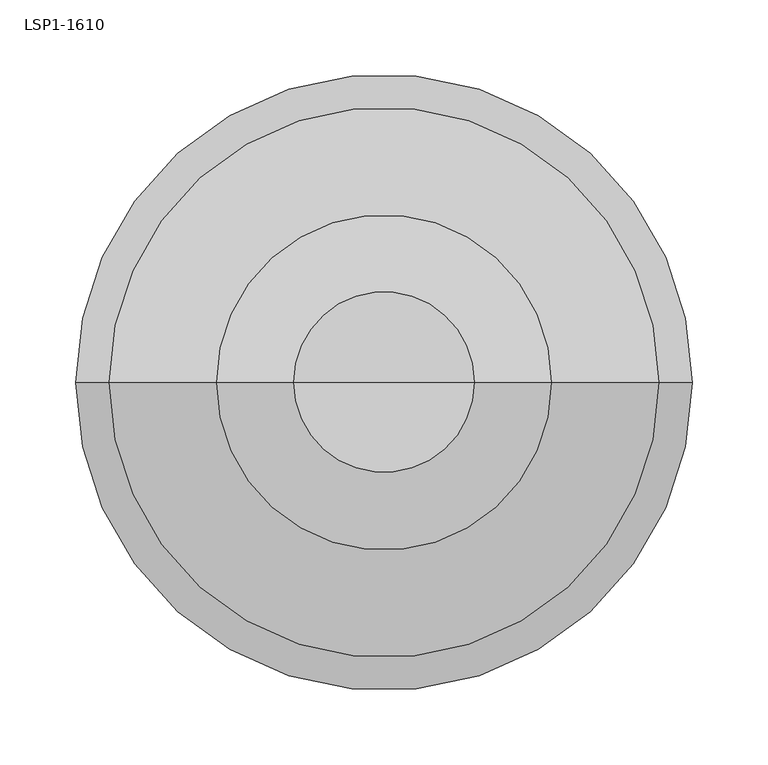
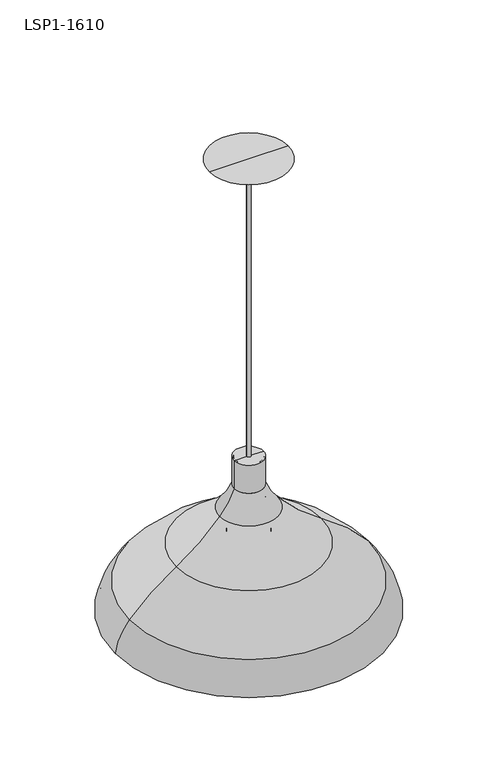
"""IFC4 building model written with IfcOpenShell, lengths in millimetres: light fixture geometry, Haworth_Swell_PendantOneLight : LSP1-1610."""

import ifcopenshell
import ifcopenshell.guid

model = None  # the IFC model being written
_history = None  # IfcOwnerHistory: only IFC2X3 demands one
_inside = {}  # id of a spatial element -> (the spatial element, [elements in it])
_under = {}  # id of a project, library or spatial element -> (it, [spatial elements below it])
_declared = {}  # id of a project -> (the project, [libraries it declares])
_typed = {}  # id of a type object -> (the type object, [elements of that type])
_made_of = {}  # id of a material, layer set ... -> (it, [elements and type objects made of it])


def new_model(schema):
    """Start an empty IFC model of exactly this schema.

    Asked for "IFC4X3", IfcOpenShell would pick the latest addendum, in which some entities
    have other attributes; the version numbers below select the first issue.
    IFC2X3 requires an IfcOwnerHistory on every rooted entity: one is made here for all.
    """
    global model, _history
    if schema == "IFC4X3":
        model = ifcopenshell.file(schema_version=(4, 3, 0, 0))
    else:
        model = ifcopenshell.file(schema=schema)
    _inside.clear()
    _under.clear()
    _declared.clear()
    _typed.clear()
    _made_of.clear()
    _history = None
    if model.schema == "IFC2X3":
        org = make("IfcOrganization", Name="unknown")
        user = make(
            "IfcPersonAndOrganization",
            ThePerson=make("IfcPerson", FamilyName="unknown"),
            TheOrganization=org,
        )
        app = make(
            "IfcApplication",
            ApplicationDeveloper=org,
            Version="unknown",
            ApplicationFullName="unknown",
            ApplicationIdentifier="unknown",
        )
        _history = make(
            "IfcOwnerHistory",
            OwningUser=user,
            OwningApplication=app,
            ChangeAction="ADDED",
            CreationDate=0,
        )
    return model


def make(cls, **values):
    """One entity of the class cls with the attributes given. An attribute that is None is left unset."""
    return model.create_entity(
        cls, **{name: value for name, value in values.items() if value is not None}
    )


def rooted(cls, **values):
    """An entity with a GlobalId (a new one), such as an element, a storey or a relation."""
    return make(cls, GlobalId=ifcopenshell.guid.new(), OwnerHistory=_history, **values)


def si_unit(unit_type, name, prefix=None):
    """IfcSIUnit, for example si_unit("LENGTHUNIT", "METRE", prefix="MILLI")."""
    return make("IfcSIUnit", UnitType=unit_type, Prefix=prefix, Name=name)


def assignment(units):
    """IfcUnitAssignment: the units of a project."""
    return None if units is None else make("IfcUnitAssignment", Units=units)


def point(xyz):
    """IfcCartesianPoint."""
    return None if xyz is None else make("IfcCartesianPoint", Coordinates=xyz)


def direction(xyz):
    """IfcDirection."""
    return None if xyz is None else make("IfcDirection", DirectionRatios=xyz)


def frame(location, z_axis=None, x_axis=None):
    """IfcAxis2Placement3D, a coordinate frame: its origin and axes. An axis left out is left unset."""
    return make(
        "IfcAxis2Placement3D",
        Location=point(location),
        Axis=direction(z_axis),
        RefDirection=direction(x_axis),
    )


def origin():
    """The frame at (0, 0, 0) with its axes left unset."""
    return frame((0.0, 0.0, 0.0))


def place(relative_to, where):
    """IfcLocalPlacement: puts the frame where relative to a parent placement (None: the world)."""
    return make(
        "IfcLocalPlacement", PlacementRelTo=relative_to, RelativePlacement=where
    )


def context(
    kind, dimensions, precision=None, world=None, true_north=None, identifier=None
):
    """IfcGeometricRepresentationContext, for example the 3D "Model" context."""
    return make(
        "IfcGeometricRepresentationContext",
        ContextIdentifier=identifier,
        ContextType=kind,
        CoordinateSpaceDimension=dimensions,
        Precision=precision,
        WorldCoordinateSystem=world,
        TrueNorth=true_north,
    )


def project(units=None, contexts=None):
    """IfcProject with its units and contexts."""
    return rooted(
        "IfcProject",
        Name="project",
        RepresentationContexts=contexts,
        UnitsInContext=assignment(units),
    )


def spatial(cls, under=None, at=None, **own):
    """A site, building, storey or space (cls), placed at a placement, below another one or the project."""
    s = rooted(cls, ObjectPlacement=at, **own)
    if under is not None:
        _under.setdefault(under.id(), (under, []))[1].append(s)
    return s


def polyline(points):
    """IfcPolyline through the points."""
    return make("IfcPolyline", Points=[point(p) for p in points])


def circle_curve(where, radius):
    """IfcCircle in the frame where."""
    return make("IfcCircle", Position=where, Radius=radius)


def ellipse_curve(where, semi_axis1, semi_axis2):
    """IfcEllipse in the frame where."""
    return make(
        "IfcEllipse", Position=where, SemiAxis1=semi_axis1, SemiAxis2=semi_axis2
    )


def trimmed(basis, trim1, trim2, sense, master):
    """IfcTrimmedCurve: the piece of a basis curve between two trims."""
    return make(
        "IfcTrimmedCurve",
        BasisCurve=basis,
        Trim1=trim1,
        Trim2=trim2,
        SenseAgreement=sense,
        MasterRepresentation=master,
    )


def shape(context_of_items, identifier, shape_type, items):
    """IfcShapeRepresentation: the items that make up one representation, for example the "Body"."""
    return make(
        "IfcShapeRepresentation",
        ContextOfItems=context_of_items,
        RepresentationIdentifier=identifier,
        RepresentationType=shape_type,
        Items=items,
    )


def source(mapping_origin, context_of_items, identifier, shape_type, items):
    """IfcRepresentationMap: a shape defined once, which mapped items show again and again."""
    return make(
        "IfcRepresentationMap",
        MappingOrigin=mapping_origin,
        MappedRepresentation=shape(context_of_items, identifier, shape_type, items),
    )


def transform(
    local_origin,
    x_axis=None,
    y_axis=None,
    z_axis=None,
    scale=None,
    scale2=None,
    scale3=None,
    uniform=True,
):
    """IfcCartesianTransformationOperator3D, or its non-uniform kind. x_axis, y_axis, z_axis: its Axis1, 2, 3."""
    if uniform:
        return make(
            "IfcCartesianTransformationOperator3D",
            Axis1=direction(x_axis),
            Axis2=direction(y_axis),
            LocalOrigin=point(local_origin),
            Scale=scale,
            Axis3=direction(z_axis),
        )
    return make(
        "IfcCartesianTransformationOperator3DnonUniform",
        Axis1=direction(x_axis),
        Axis2=direction(y_axis),
        LocalOrigin=point(local_origin),
        Scale=scale,
        Axis3=direction(z_axis),
        Scale2=scale2,
        Scale3=scale3,
    )


def mapped(mapping_source, mapping_target):
    """IfcMappedItem: shows the shape of a source again, moved by a transform."""
    return make(
        "IfcMappedItem", MappingSource=mapping_source, MappingTarget=mapping_target
    )


def made_of(thing, what):
    """Note that an element or type object is made of a material, layer set ...; save() writes the relation."""
    if what is not None:
        _made_of.setdefault(what.id(), (what, []))[1].append(thing)
    return thing


def element(
    cls,
    number,
    at=None,
    inside=None,
    cuts=None,
    type_object=None,
    material=None,
    context=None,
    identifier="Body",
    shape_type=None,
    held_by="IfcProductDefinitionShape",
    body=None,
    shapes=None,
    **own,
):
    """One element of the class cls, such as IfcWall. Its Tag is "e" and its number.

    at: its placement. inside: the storey or other place that contains it. cuts: it is an
    opening in that element (IfcRelVoidsElement). A single representation is given by context,
    identifier, shape_type and body (its items); several are given by shapes. held_by: the class
    of the entity that holds the representations. save() writes the other relations.
    """
    e = rooted(cls, Tag="e%d" % number, ObjectPlacement=at, **own)
    if body is not None:
        shapes = [shape(context, identifier, shape_type, body)]
    if shapes is not None:
        e.Representation = make(held_by, Representations=shapes)
    if inside is not None:
        _inside.setdefault(inside.id(), (inside, []))[1].append(e)
    if cuts is not None:
        rooted(
            "IfcRelVoidsElement", RelatingBuildingElement=cuts, RelatedOpeningElement=e
        )
    if type_object is not None:
        _typed.setdefault(type_object.id(), (type_object, []))[1].append(e)
    return made_of(e, material)


def aggregate(whole, parts):
    """IfcRelAggregates: a whole, such as a stair, and the parts it consists of."""
    return rooted("IfcRelAggregates", RelatingObject=whole, RelatedObjects=parts)


def save(model, path):
    """Write the relations noted so far, then the file.

    IfcRelAggregates (storeys below a building ...), IfcRelContainedInSpatialStructure (elements
    in a storey), IfcRelDefinesByType, IfcRelAssociatesMaterial and IfcRelDeclares: one each for
    every whole, place, type object, material and project.
    """
    for whole, parts in _under.values():
        aggregate(whole, parts)
    for where, things in _inside.values():
        rooted(
            "IfcRelContainedInSpatialStructure",
            RelatedElements=things,
            RelatingStructure=where,
        )
    for kind, things in _typed.values():
        rooted("IfcRelDefinesByType", RelatedObjects=things, RelatingType=kind)
    for what, things in _made_of.values():
        rooted("IfcRelAssociatesMaterial", RelatedObjects=things, RelatingMaterial=what)
    for by, libraries in _declared.values():
        rooted("IfcRelDeclares", RelatingContext=by, RelatedDefinitions=libraries)
    model.write(path)


def plane_surface(at):
    """IfcPlane: the flat surface through the origin of the frame at, square to its z axis."""
    return make("IfcPlane", Position=at)


def cylinder_surface(at, radius):
    """IfcCylindricalSurface: all points at the distance radius from the z axis of the frame at."""
    return make("IfcCylindricalSurface", Position=at, Radius=radius)


def revolved_surface(curve, axis_point, axis_direction):
    """IfcSurfaceOfRevolution: the curve turned about the line through axis_point along axis_direction."""
    return make(
        "IfcSurfaceOfRevolution",
        SweptCurve=make("IfcArbitraryOpenProfileDef", ProfileType="CURVE", Curve=curve),
        AxisPosition=make("IfcAxis1Placement", Location=point(axis_point), Axis=direction(axis_direction)),
    )


def advanced_brep(points, edges, surfaces, faces):
    """IfcAdvancedBrep: a solid bounded by faces that lie on surfaces and meet in shared edges.

    An edge is (start, end): straight between two places in points (the first is 0);
    or (start, end, curve); or (start, end, curve, False) where it runs against its curve.
    A face is (place in surfaces, loops), or (place, loops, False) where it looks against
    its surface's normal. A loop lists edges by number (the first is 1), with a minus sign
    where the edge is run from its end to its start. The first loop is the outer one.
    """
    corners = [point(p) for p in points]
    vertices = [make("IfcVertexPoint", VertexGeometry=c) for c in corners]
    made = []
    for start, end, *more in edges:
        made.append(
            make(
                "IfcEdgeCurve",
                EdgeStart=vertices[start],
                EdgeEnd=vertices[end],
                EdgeGeometry=more[0] if more else make("IfcPolyline", Points=[corners[start], corners[end]]),
                SameSense=more[1] if len(more) > 1 else True,
            )
        )
    hull = []
    for where, loops, *sense in faces:
        bounds = []
        for j, loop in enumerate(loops):
            ring = [make("IfcOrientedEdge", EdgeElement=made[abs(k) - 1], Orientation=k > 0) for k in loop]
            bounds.append(
                make(
                    "IfcFaceOuterBound" if j == 0 else "IfcFaceBound",
                    Bound=make("IfcEdgeLoop", EdgeList=ring),
                    Orientation=True,
                )
            )
        hull.append(make("IfcAdvancedFace", Bounds=bounds, FaceSurface=surfaces[where], SameSense=sense[0] if sense else True))
    return make("IfcAdvancedBrep", Outer=make("IfcClosedShell", CfsFaces=hull))


def lsp1_1610_a081eefe(model_context):
    return source(origin(), model_context, "Body", "AdvancedBrep", [
        advanced_brep(
        [(-434.1339478, 224.1223386, 2526.8983149), (-396.0170628, 224.1223386, 2526.8983149), (-393.3437457, 224.1223386, 2479.1977381), (-436.807265, 224.1223386, 2479.1977381), (-431.4411306, 224.1223386, 2526.8983149), (-398.70988, 224.1223386, 2526.8983149), (-434.1777176, 224.1223386, 2479.1498223), (-395.9732931, 224.1223386, 2479.1498223), (-432.560074, 224.1223386, 2479.1498223), (-397.5909366, 224.1223386, 2479.1498223), (-440.9016384, 224.1223386, 2454.9241603), (-389.2493722, 224.1223386, 2454.9241603), (-440.4092806, 224.1223386, 2450.598757), (-389.7417301, 224.1223386, 2450.598757), (-442.4017725, 224.1223386, 2450.598757), (-387.7492381, 224.1223386, 2450.598757), (-442.9636091, 224.1223386, 2456.4743423), (-387.1874015, 224.1223386, 2456.4743423), (-435.1393165, 224.1223386, 2479.1977381), (-395.0116942, 224.1223386, 2479.1977381)],
        [
            (0, 1, circle_curve(frame((-415.0755053, 224.1223386, 2526.8983149), z_axis=(0.0, 0.0, -1.0), x_axis=(1.0, 0.0, 0.0)), 19.0584425)),
            (1, 2, circle_curve(frame((-496.003567, 224.1223386, 2497.3695008), z_axis=(0.0, 1.0, 0.0), x_axis=(1.0, 0.0, 0.0)), 104.2557043)),
            (2, 3, circle_curve(frame((-415.0755053, 224.1223386, 2479.1977381), z_axis=(0.0, 0.0, 1.0), x_axis=(1.0, 0.0, 0.0)), 21.7317596)),
            (3, 0, circle_curve(frame((-334.1474437, 224.1223386, 2497.3695008), z_axis=(0.0, 1.0, 0.0), x_axis=(-1.0, 0.0, 0.0)), 104.2557043)),
            (1, 0, circle_curve(frame((-415.0755053, 224.1223386, 2526.8983149), z_axis=(0.0, 0.0, -1.0), x_axis=(1.0, 0.0, 0.0)), 19.0584425)),
            (3, 2, circle_curve(frame((-415.0755053, 224.1223386, 2479.1977381), z_axis=(0.0, 0.0, 1.0), x_axis=(1.0, 0.0, 0.0)), 21.7317596)),
            (4, 5, circle_curve(frame((-415.0755053, 224.1223386, 2526.8983149), z_axis=(0.0, 0.0, -1.0), x_axis=(1.0, 0.0, 0.0)), 16.3656253)),
            (5, 1),
            (0, 4),
            (5, 4, circle_curve(frame((-415.0755053, 224.1223386, 2526.8983149), z_axis=(0.0, 0.0, -1.0), x_axis=(1.0, 0.0, 0.0)), 16.3656253)),
            (6, 7, circle_curve(frame((-415.0755053, 224.1223386, 2479.1498223), z_axis=(0.0, 0.0, -1.0), x_axis=(1.0, 0.0, 0.0)), 19.1022122)),
            (7, 5, circle_curve(frame((-496.003567, 224.1223386, 2497.3695008), z_axis=(0.0, -1.0, 0.0), x_axis=(1.0, 0.0, 0.0)), 101.6760168)),
            (4, 6, circle_curve(frame((-334.1474437, 224.1223386, 2497.3695008), z_axis=(0.0, -1.0, 0.0), x_axis=(-1.0, 0.0, 0.0)), 101.6760168)),
            (7, 6, circle_curve(frame((-415.0755053, 224.1223386, 2479.1498223), z_axis=(0.0, 0.0, -1.0), x_axis=(1.0, 0.0, 0.0)), 19.1022122)),
            (8, 9, circle_curve(frame((-415.0755053, 224.1223386, 2479.1498223), z_axis=(0.0, 0.0, -1.0), x_axis=(1.0, 0.0, 0.0)), 17.4845687)),
            (9, 7),
            (6, 8),
            (9, 8, circle_curve(frame((-415.0755053, 224.1223386, 2479.1498223), z_axis=(0.0, 0.0, -1.0), x_axis=(1.0, 0.0, 0.0)), 17.4845687)),
            (10, 11, circle_curve(frame((-415.0755053, 224.1223386, 2454.9241603), z_axis=(0.0, 0.0, -1.0), x_axis=(1.0, 0.0, 0.0)), 25.8261331)),
            (11, 9, circle_curve(frame((-355.9978718, 224.1223386, 2479.9225165), z_axis=(0.0, 1.0, 0.0), x_axis=(1.0, 0.0, 0.0)), 41.6002415)),
            (8, 10, circle_curve(frame((-474.1531388, 224.1223386, 2479.9225165), z_axis=(0.0, 1.0, 0.0), x_axis=(-1.0, 0.0, 0.0)), 41.6002415)),
            (11, 10, circle_curve(frame((-415.0755053, 224.1223386, 2454.9241603), z_axis=(0.0, 0.0, -1.0), x_axis=(1.0, 0.0, 0.0)), 25.8261331)),
            (12, 13, circle_curve(frame((-415.0755053, 224.1223386, 2450.598757), z_axis=(0.0, 0.0, -1.0), x_axis=(1.0, 0.0, 0.0)), 25.3337753)),
            (13, 11, circle_curve(frame((-391.7801705, 224.1223386, 2453.0215154), z_axis=(0.0, -1.0, 0.0), x_axis=(1.0, 0.0, 0.0)), 3.1662277)),
            (10, 12, circle_curve(frame((-438.3708401, 224.1223386, 2453.0215154), z_axis=(0.0, -1.0, 0.0), x_axis=(-1.0, 0.0, 0.0)), 3.1662277)),
            (13, 12, circle_curve(frame((-415.0755053, 224.1223386, 2450.598757), z_axis=(0.0, 0.0, -1.0), x_axis=(1.0, 0.0, 0.0)), 25.3337753)),
            (14, 15, circle_curve(frame((-415.0755053, 224.1223386, 2450.598757), z_axis=(0.0, 0.0, -1.0), x_axis=(1.0, 0.0, 0.0)), 27.3262672)),
            (15, 13),
            (12, 14),
            (15, 14, circle_curve(frame((-415.0755053, 224.1223386, 2450.598757), z_axis=(0.0, 0.0, -1.0), x_axis=(1.0, 0.0, 0.0)), 27.3262672)),
            (16, 17, circle_curve(frame((-415.0755053, 224.1223386, 2456.4743423), z_axis=(0.0, 0.0, -1.0), x_axis=(1.0, 0.0, 0.0)), 27.8881038)),
            (17, 15, circle_curve(frame((-388.7454841, 224.1223386, 2453.658675), z_axis=(0.0, 1.0, 0.0), x_axis=(1.0, 0.0, 0.0)), 3.2180124)),
            (14, 16, circle_curve(frame((-441.4055265, 224.1223386, 2453.658675), z_axis=(0.0, 1.0, 0.0), x_axis=(-1.0, 0.0, 0.0)), 3.2180124)),
            (17, 16, circle_curve(frame((-415.0755053, 224.1223386, 2456.4743423), z_axis=(0.0, 0.0, -1.0), x_axis=(1.0, 0.0, 0.0)), 27.8881038)),
            (18, 19, circle_curve(frame((-415.0755053, 224.1223386, 2479.1977381), z_axis=(0.0, 0.0, -1.0), x_axis=(1.0, 0.0, 0.0)), 20.0638111)),
            (19, 17, circle_curve(frame((-355.9978718, 224.1223386, 2479.9225165), z_axis=(0.0, -1.0, 0.0), x_axis=(1.0, 0.0, 0.0)), 39.020554)),
            (16, 18, circle_curve(frame((-474.1531388, 224.1223386, 2479.9225165), z_axis=(0.0, -1.0, 0.0), x_axis=(-1.0, 0.0, 0.0)), 39.020554)),
            (19, 18, circle_curve(frame((-415.0755053, 224.1223386, 2479.1977381), z_axis=(0.0, 0.0, -1.0), x_axis=(1.0, 0.0, 0.0)), 20.0638111)),
            (2, 19),
            (18, 3),
        ],
        [
            revolved_surface(trimmed(ellipse_curve(frame((-496.003567, 224.1223386, 2497.3695008), z_axis=(0.0, -1.0, 0.0), x_axis=(1.0, 0.0, 0.0)), 104.2557043, 104.2557043), [point((-393.3437457, 224.1223386, 2479.1977381))], [point((-396.0170628, 224.1223386, 2526.8983149))], True, "CARTESIAN"), (-415.0755053, 224.1223386, 2507.6449843), (0.0, 0.0, 1.0)),
            plane_surface(frame((-415.0755053, 224.1223386, 2526.8983149), z_axis=(0.0, 0.0, 1.0), x_axis=(1.0, 0.0, 0.0))),
            revolved_surface(trimmed(ellipse_curve(frame((-496.003567, 224.1223386, 2497.3695008), z_axis=(0.0, 1.0, 0.0), x_axis=(1.0, 0.0, 0.0)), 101.6760168, 101.6760168), [point((-398.70988, 224.1223386, 2526.8983149))], [point((-395.9732931, 224.1223386, 2479.1498223))], True, "CARTESIAN"), (-415.0755053, 224.1223386, 2507.6449843), (0.0, 0.0, 1.0)),
            plane_surface(frame((-415.0755053, 224.1223386, 2479.1498223), z_axis=(0.0, 0.0, 1.0), x_axis=(1.0, 0.0, 0.0))),
            revolved_surface(trimmed(ellipse_curve(frame((-355.9978718, 224.1223386, 2479.9225165), z_axis=(0.0, -1.0, 0.0), x_axis=(1.0, 0.0, 0.0)), 41.6002415, 41.6002415), [point((-397.5909366, 224.1223386, 2479.1498223))], [point((-389.2493722, 224.1223386, 2454.9241603))], True, "CARTESIAN"), (-415.0755053, 224.1223386, 2507.6449843), (0.0, 0.0, 1.0)),
            revolved_surface(trimmed(ellipse_curve(frame((-391.7801705, 224.1223386, 2453.0215154), z_axis=(0.0, 1.0, 0.0), x_axis=(1.0, 0.0, 0.0)), 3.1662277, 3.1662277), [point((-389.2493722, 224.1223386, 2454.9241603))], [point((-389.7417301, 224.1223386, 2450.598757))], True, "CARTESIAN"), (-415.0755053, 224.1223386, 2507.6449843), (0.0, 0.0, 1.0)),
            plane_surface(frame((-415.0755053, 224.1223386, 2450.598757), z_axis=(0.0, 0.0, -1.0), x_axis=(1.0, 0.0, 0.0))),
            revolved_surface(trimmed(ellipse_curve(frame((-388.7454841, 224.1223386, 2453.658675), z_axis=(0.0, -1.0, 0.0), x_axis=(1.0, 0.0, 0.0)), 3.2180124, 3.2180124), [point((-387.7492381, 224.1223386, 2450.598757))], [point((-387.1874015, 224.1223386, 2456.4743423))], True, "CARTESIAN"), (-415.0755053, 224.1223386, 2507.6449843), (0.0, 0.0, 1.0)),
            revolved_surface(trimmed(ellipse_curve(frame((-355.9978718, 224.1223386, 2479.9225165), z_axis=(0.0, 1.0, 0.0), x_axis=(1.0, 0.0, 0.0)), 39.020554, 39.020554), [point((-387.1874015, 224.1223386, 2456.4743423))], [point((-395.0116942, 224.1223386, 2479.1977381))], True, "CARTESIAN"), (-415.0755053, 224.1223386, 2507.6449843), (0.0, 0.0, 1.0)),
            plane_surface(frame((-415.0755053, 224.1223386, 2479.1977381), z_axis=(0.0, 0.0, -1.0), x_axis=(1.0, 0.0, 0.0))),
        ],
        [
            (0, [[1, 2, 3, 4]]),
            (0, [[5, -4, 6, -2]]),
            (1, [[7, 8, -1, 9]]),
            (1, [[10, -9, -5, -8]]),
            (2, [[11, 12, -7, 13]]),
            (2, [[14, -13, -10, -12]]),
            (3, [[15, 16, -11, 17]]),
            (3, [[18, -17, -14, -16]]),
            (4, [[19, 20, -15, 21]]),
            (4, [[22, -21, -18, -20]]),
            (5, [[23, 24, -19, 25]]),
            (5, [[26, -25, -22, -24]]),
            (6, [[27, 28, -23, 29]]),
            (6, [[30, -29, -26, -28]]),
            (7, [[31, 32, -27, 33]]),
            (7, [[34, -33, -30, -32]]),
            (8, [[35, 36, -31, 37]]),
            (8, [[38, -37, -34, -36]]),
            (9, [[-3, 39, -35, 40]]),
            (9, [[-6, -40, -38, -39]]),
        ],
    ),
        advanced_brep(
        [(-596.5646284, 224.1223386, 2372.4100703), (-233.5863822, 224.1223386, 2372.4100703), (-211.8755053, 224.1223386, 2326.655318), (-618.2755053, 224.1223386, 2326.655318), (-525.7075333, 224.1223386, 2433.0482753), (-304.4434773, 224.1223386, 2433.0482753), (-437.2818509, 224.1223386, 2526.8983149), (-392.8691597, 224.1223386, 2526.8983149), (-371.0531398, 224.1223386, 2490.3341786), (-459.0978708, 224.1223386, 2490.3341786), (-434.5295407, 224.1223386, 2526.8983149), (-395.62147, 224.1223386, 2526.8983149), (-457.1514699, 224.1223386, 2488.6411602), (-372.9995407, 224.1223386, 2488.6411602), (-524.3248861, 224.1223386, 2430.8704152), (-305.8261245, 224.1223386, 2430.8704152), (-594.6265251, 224.1223386, 2370.7075593), (-235.5244855, 224.1223386, 2370.7075593), (-615.7309871, 224.1223386, 2326.2308009), (-214.4200235, 224.1223386, 2326.2308009)],
        [
            (0, 1, circle_curve(frame((-415.0755053, 224.1223386, 2372.4100703), z_axis=(0.0, 0.0, -1.0), x_axis=(1.0, 0.0, 0.0)), 181.4891231)),
            (1, 2, circle_curve(frame((-302.9743826, 224.1223386, 2311.4567492), z_axis=(0.0, 1.0, 0.0), x_axis=(1.0, 0.0, 0.0)), 92.3580096)),
            (2, 3, circle_curve(frame((-415.0755053, 224.1223386, 2326.655318), z_axis=(0.0, 0.0, 1.0), x_axis=(1.0, 0.0, 0.0)), 203.2)),
            (3, 0, circle_curve(frame((-527.176628, 224.1223386, 2311.4567492), z_axis=(0.0, 1.0, 0.0), x_axis=(-1.0, 0.0, 0.0)), 92.3580096)),
            (1, 0, circle_curve(frame((-415.0755053, 224.1223386, 2372.4100703), z_axis=(0.0, 0.0, -1.0), x_axis=(1.0, 0.0, 0.0)), 181.4891231)),
            (3, 2, circle_curve(frame((-415.0755053, 224.1223386, 2326.655318), z_axis=(0.0, 0.0, 1.0), x_axis=(1.0, 0.0, 0.0)), 203.2)),
            (4, 5, circle_curve(frame((-415.0755053, 224.1223386, 2433.0482753), z_axis=(0.0, 0.0, -1.0), x_axis=(1.0, 0.0, 0.0)), 110.632028)),
            (5, 1, circle_curve(frame((-480.8217296, 224.1223386, 2155.2282028), z_axis=(0.0, 1.0, 0.0), x_axis=(1.0, 0.0, 0.0)), 329.0794441)),
            (0, 4, circle_curve(frame((-349.329281, 224.1223386, 2155.2282028), z_axis=(0.0, 1.0, 0.0), x_axis=(-1.0, 0.0, 0.0)), 329.0794441)),
            (5, 4, circle_curve(frame((-415.0755053, 224.1223386, 2433.0482753), z_axis=(0.0, 0.0, -1.0), x_axis=(1.0, 0.0, 0.0)), 110.632028)),
            (6, 7, circle_curve(frame((-415.0755053, 224.1223386, 2526.8983149), z_axis=(0.0, 0.0, -1.0), x_axis=(1.0, 0.0, 0.0)), 22.2063456)),
            (7, 8, circle_curve(frame((-280.3022903, 224.1223386, 2569.2710829), z_axis=(0.0, -1.0, 0.0), x_axis=(1.0, 0.0, 0.0)), 120.2778099)),
            (8, 9, circle_curve(frame((-415.0755053, 224.1223386, 2490.3341786), z_axis=(0.0, 0.0, 1.0), x_axis=(1.0, 0.0, 0.0)), 44.0223655)),
            (9, 6, circle_curve(frame((-549.8487203, 224.1223386, 2569.2710829), z_axis=(0.0, -1.0, 0.0), x_axis=(-1.0, 0.0, 0.0)), 120.2778099)),
            (7, 6, circle_curve(frame((-415.0755053, 224.1223386, 2526.8983149), z_axis=(0.0, 0.0, -1.0), x_axis=(1.0, 0.0, 0.0)), 22.2063456)),
            (9, 8, circle_curve(frame((-415.0755053, 224.1223386, 2490.3341786), z_axis=(0.0, 0.0, 1.0), x_axis=(1.0, 0.0, 0.0)), 44.0223655)),
            (8, 5, circle_curve(frame((-141.0783925, 224.1223386, 2690.3708142), z_axis=(0.0, -1.0, 0.0), x_axis=(1.0, 0.0, 0.0)), 304.8)),
            (4, 9, circle_curve(frame((-689.0726181, 224.1223386, 2690.3708142), z_axis=(0.0, -1.0, 0.0), x_axis=(-1.0, 0.0, 0.0)), 304.8)),
            (10, 11, circle_curve(frame((-415.0755053, 224.1223386, 2526.8983149), z_axis=(0.0, 0.0, -1.0), x_axis=(1.0, 0.0, 0.0)), 19.4540354)),
            (11, 7),
            (6, 10),
            (11, 10, circle_curve(frame((-415.0755053, 224.1223386, 2526.8983149), z_axis=(0.0, 0.0, -1.0), x_axis=(1.0, 0.0, 0.0)), 19.4540354)),
            (12, 13, circle_curve(frame((-415.0755053, 224.1223386, 2488.6411602), z_axis=(0.0, 0.0, -1.0), x_axis=(1.0, 0.0, 0.0)), 42.0759646)),
            (13, 11, circle_curve(frame((-280.3022903, 224.1223386, 2569.2710829), z_axis=(0.0, 1.0, 0.0), x_axis=(1.0, 0.0, 0.0)), 122.8574974)),
            (10, 12, circle_curve(frame((-549.8487203, 224.1223386, 2569.2710829), z_axis=(0.0, 1.0, 0.0), x_axis=(-1.0, 0.0, 0.0)), 122.8574974)),
            (13, 12, circle_curve(frame((-415.0755053, 224.1223386, 2488.6411602), z_axis=(0.0, 0.0, -1.0), x_axis=(1.0, 0.0, 0.0)), 42.0759646)),
            (14, 15, circle_curve(frame((-415.0755053, 224.1223386, 2430.8704152), z_axis=(0.0, 0.0, -1.0), x_axis=(1.0, 0.0, 0.0)), 109.2493808)),
            (15, 13, circle_curve(frame((-141.0783925, 224.1223386, 2690.3708142), z_axis=(0.0, 1.0, 0.0), x_axis=(1.0, 0.0, 0.0)), 307.3796875)),
            (12, 14, circle_curve(frame((-689.0726181, 224.1223386, 2690.3708142), z_axis=(0.0, 1.0, 0.0), x_axis=(-1.0, 0.0, 0.0)), 307.3796875)),
            (15, 14, circle_curve(frame((-415.0755053, 224.1223386, 2430.8704152), z_axis=(0.0, 0.0, -1.0), x_axis=(1.0, 0.0, 0.0)), 109.2493808)),
            (16, 17, circle_curve(frame((-415.0755053, 224.1223386, 2370.7075593), z_axis=(0.0, 0.0, -1.0), x_axis=(1.0, 0.0, 0.0)), 179.5510198)),
            (17, 15, circle_curve(frame((-480.8217296, 224.1223386, 2155.2282028), z_axis=(0.0, -1.0, 0.0), x_axis=(1.0, 0.0, 0.0)), 326.4997566)),
            (14, 16, circle_curve(frame((-349.329281, 224.1223386, 2155.2282028), z_axis=(0.0, -1.0, 0.0), x_axis=(-1.0, 0.0, 0.0)), 326.4997566)),
            (17, 16, circle_curve(frame((-415.0755053, 224.1223386, 2370.7075593), z_axis=(0.0, 0.0, -1.0), x_axis=(1.0, 0.0, 0.0)), 179.5510198)),
            (18, 19, circle_curve(frame((-415.0755053, 224.1223386, 2326.2308009), z_axis=(0.0, 0.0, -1.0), x_axis=(1.0, 0.0, 0.0)), 200.6554818)),
            (19, 17, circle_curve(frame((-302.9743826, 224.1223386, 2311.4567492), z_axis=(0.0, -1.0, 0.0), x_axis=(1.0, 0.0, 0.0)), 89.7783221)),
            (16, 18, circle_curve(frame((-527.176628, 224.1223386, 2311.4567492), z_axis=(0.0, -1.0, 0.0), x_axis=(-1.0, 0.0, 0.0)), 89.7783221)),
            (19, 18, circle_curve(frame((-415.0755053, 224.1223386, 2326.2308009), z_axis=(0.0, 0.0, -1.0), x_axis=(1.0, 0.0, 0.0)), 200.6554818)),
            (2, 19),
            (18, 3),
        ],
        [
            revolved_surface(trimmed(ellipse_curve(frame((-302.9743826, 224.1223386, 2311.4567492), z_axis=(0.0, -1.0, 0.0), x_axis=(1.0, 0.0, 0.0)), 92.3580096, 92.3580096), [point((-211.8755053, 224.1223386, 2326.655318))], [point((-233.5863822, 224.1223386, 2372.4100703))], True, "CARTESIAN"), (-415.0755053, 224.1223386, 2526.8983149), (0.0, 0.0, 1.0)),
            revolved_surface(trimmed(ellipse_curve(frame((-480.8217296, 224.1223386, 2155.2282028), z_axis=(0.0, -1.0, 0.0), x_axis=(1.0, 0.0, 0.0)), 329.0794441, 329.0794441), [point((-233.5863822, 224.1223386, 2372.4100703))], [point((-304.4434773, 224.1223386, 2433.0482753))], True, "CARTESIAN"), (-415.0755053, 224.1223386, 2526.8983149), (0.0, 0.0, 1.0)),
            revolved_surface(trimmed(ellipse_curve(frame((-280.3022903, 224.1223386, 2569.2710829), z_axis=(0.0, 1.0, 0.0), x_axis=(1.0, 0.0, 0.0)), 120.2778099, 120.2778099), [point((-371.0531398, 224.1223386, 2490.3341786))], [point((-392.8691597, 224.1223386, 2526.8983149))], True, "CARTESIAN"), (-415.0755053, 224.1223386, 2526.8983149), (0.0, 0.0, 1.0)),
            revolved_surface(trimmed(ellipse_curve(frame((-141.0783925, 224.1223386, 2690.3708142), z_axis=(0.0, 1.0, 0.0), x_axis=(1.0, 0.0, 0.0)), 304.8, 304.8), [point((-304.4434773, 224.1223386, 2433.0482753))], [point((-371.0531398, 224.1223386, 2490.3341786))], True, "CARTESIAN"), (-415.0755053, 224.1223386, 2526.8983149), (0.0, 0.0, 1.0)),
            plane_surface(frame((-415.0755053, 224.1223386, 2526.8983149), z_axis=(0.0, 0.0, 1.0), x_axis=(1.0, 0.0, 0.0))),
            revolved_surface(trimmed(ellipse_curve(frame((-280.3022903, 224.1223386, 2569.2710829), z_axis=(0.0, -1.0, 0.0), x_axis=(1.0, 0.0, 0.0)), 122.8574974, 122.8574974), [point((-395.62147, 224.1223386, 2526.8983149))], [point((-372.9995407, 224.1223386, 2488.6411602))], True, "CARTESIAN"), (-415.0755053, 224.1223386, 2526.8983149), (0.0, 0.0, 1.0)),
            revolved_surface(trimmed(ellipse_curve(frame((-141.0783925, 224.1223386, 2690.3708142), z_axis=(0.0, -1.0, 0.0), x_axis=(1.0, 0.0, 0.0)), 307.3796875, 307.3796875), [point((-372.9995407, 224.1223386, 2488.6411602))], [point((-305.8261245, 224.1223386, 2430.8704152))], True, "CARTESIAN"), (-415.0755053, 224.1223386, 2526.8983149), (0.0, 0.0, 1.0)),
            revolved_surface(trimmed(ellipse_curve(frame((-480.8217296, 224.1223386, 2155.2282028), z_axis=(0.0, 1.0, 0.0), x_axis=(1.0, 0.0, 0.0)), 326.4997566, 326.4997566), [point((-305.8261245, 224.1223386, 2430.8704152))], [point((-235.5244855, 224.1223386, 2370.7075593))], True, "CARTESIAN"), (-415.0755053, 224.1223386, 2526.8983149), (0.0, 0.0, 1.0)),
            revolved_surface(trimmed(ellipse_curve(frame((-302.9743826, 224.1223386, 2311.4567492), z_axis=(0.0, 1.0, 0.0), x_axis=(1.0, 0.0, 0.0)), 89.7783221, 89.7783221), [point((-235.5244855, 224.1223386, 2370.7075593))], [point((-214.4200235, 224.1223386, 2326.2308009))], True, "CARTESIAN"), (-415.0755053, 224.1223386, 2526.8983149), (0.0, 0.0, 1.0)),
            revolved_surface(polyline([(-214.4200235, 224.1223386, 2326.2308009), (-211.8755053, 224.1223386, 2326.655318)]), (-415.0755053, 224.1223386, 2526.8983149), (0.0, 0.0, 1.0)),
        ],
        [
            (0, [[1, 2, 3, 4]]),
            (0, [[5, -4, 6, -2]]),
            (1, [[7, 8, -1, 9]]),
            (1, [[10, -9, -5, -8]]),
            (2, [[11, 12, 13, 14]]),
            (2, [[15, -14, 16, -12]]),
            (3, [[-13, 17, -7, 18]]),
            (3, [[-16, -18, -10, -17]]),
            (4, [[19, 20, -11, 21]]),
            (4, [[22, -21, -15, -20]]),
            (5, [[23, 24, -19, 25]]),
            (5, [[26, -25, -22, -24]]),
            (6, [[27, 28, -23, 29]]),
            (6, [[30, -29, -26, -28]]),
            (7, [[31, 32, -27, 33]]),
            (7, [[34, -33, -30, -32]]),
            (8, [[35, 36, -31, 37]]),
            (8, [[38, -37, -34, -36]]),
            (9, [[-3, 39, -35, 40]]),
            (9, [[-6, -40, -38, -39]]),
        ],
    ),
        advanced_brep(
        [(-437.2777155, 224.2532085, 2526.8983149), (-392.8650243, 224.2532085, 2526.8983149), (-415.0713699, 224.2532085, 2526.8983149), (-437.2777155, 224.2532085, 2571.6417702), (-392.8650243, 224.2532085, 2571.6417702), (-415.0713699, 224.2532085, 2571.6417702)],
        [
            (0, 1, circle_curve(frame((-415.0713699, 224.2532085, 2526.8983149), z_axis=(0.0, 0.0, -1.0), x_axis=(1.0, 0.0, 0.0)), 22.2063456)),
            (1, 2),
            (2, 0),
            (1, 0, circle_curve(frame((-415.0713699, 224.2532085, 2526.8983149), z_axis=(0.0, 0.0, -1.0), x_axis=(1.0, 0.0, 0.0)), 22.2063456)),
            (3, 4, circle_curve(frame((-415.0713699, 224.2532085, 2571.6417702), z_axis=(0.0, 0.0, -1.0), x_axis=(1.0, 0.0, 0.0)), 22.2063456)),
            (4, 1),
            (0, 3),
            (4, 3, circle_curve(frame((-415.0713699, 224.2532085, 2571.6417702), z_axis=(0.0, 0.0, -1.0), x_axis=(1.0, 0.0, 0.0)), 22.2063456)),
            (5, 4),
            (3, 5),
        ],
        [
            plane_surface(frame((-415.0713699, 224.2532085, 2526.8983149), z_axis=(0.0, 0.0, -1.0), x_axis=(1.0, 0.0, 0.0))),
            cylinder_surface(frame((-415.0713699, 224.2532085, 2571.6417702), z_axis=(0.0, 0.0, 1.0), x_axis=(1.0, 0.0, 0.0)), 22.2063456),
            plane_surface(frame((-415.0713699, 224.2532085, 2571.6417702), z_axis=(0.0, 0.0, 1.0), x_axis=(1.0, 0.0, 0.0))),
        ],
        [
            (0, [[1, 2, 3]]),
            (0, [[4, -3, -2]]),
            (1, [[5, 6, -1, 7]]),
            (1, [[8, -7, -4, -6]]),
            (2, [[9, -5, 10]]),
            (2, [[-10, -8, -9]]),
        ],
    ),
        advanced_brep(
        [(-435.3113988, 224.2532085, 2569.2170981), (-394.8313411, 224.2532085, 2569.2170981), (-415.0713699, 224.2532085, 2569.2170981), (-435.3113988, 224.2532085, 2571.6417702), (-394.8313411, 224.2532085, 2571.6417702), (-415.0713699, 224.2532085, 2571.6417702)],
        [
            (0, 1, circle_curve(frame((-415.0713699, 224.2532085, 2569.2170981), z_axis=(0.0, 0.0, -1.0), x_axis=(1.0, 0.0, 0.0)), 20.2400288)),
            (1, 2),
            (2, 0),
            (1, 0, circle_curve(frame((-415.0713699, 224.2532085, 2569.2170981), z_axis=(0.0, 0.0, -1.0), x_axis=(1.0, 0.0, 0.0)), 20.2400288)),
            (3, 4, circle_curve(frame((-415.0713699, 224.2532085, 2571.6417702), z_axis=(0.0, 0.0, -1.0), x_axis=(1.0, 0.0, 0.0)), 20.2400288)),
            (4, 1),
            (0, 3),
            (4, 3, circle_curve(frame((-415.0713699, 224.2532085, 2571.6417702), z_axis=(0.0, 0.0, -1.0), x_axis=(1.0, 0.0, 0.0)), 20.2400288)),
            (5, 4),
            (3, 5),
        ],
        [
            plane_surface(frame((-415.0713699, 224.2532085, 2569.2170981), z_axis=(0.0, 0.0, -1.0), x_axis=(1.0, 0.0, 0.0))),
            cylinder_surface(frame((-415.0713699, 224.2532085, 2571.6417702), z_axis=(0.0, 0.0, 1.0), x_axis=(1.0, 0.0, 0.0)), 20.2400288),
            plane_surface(frame((-415.0713699, 224.2532085, 2571.6417702), z_axis=(0.0, 0.0, 1.0), x_axis=(1.0, 0.0, 0.0))),
        ],
        [
            (0, [[1, 2, 3]]),
            (0, [[4, -3, -2]]),
            (1, [[5, 6, -1, 7]]),
            (1, [[8, -7, -4, -6]]),
            (2, [[9, -5, 10]]),
            (2, [[-10, -8, -9]]),
        ],
    ),
        advanced_brep(
        [(-418.2563996, 224.2532085, 2571.6417702), (-411.8863403, 224.2532085, 2571.6417702), (-415.0713699, 224.2532085, 2571.6417702), (-418.2563996, 224.2532085, 3028.8723885), (-411.8863403, 224.2532085, 3028.8723885), (-415.0713699, 224.2532085, 3028.8723885)],
        [
            (0, 1, circle_curve(frame((-415.0713699, 224.2532085, 2571.6417702), z_axis=(0.0, 0.0, -1.0), x_axis=(1.0, 0.0, 0.0)), 3.1850297)),
            (1, 2),
            (2, 0),
            (1, 0, circle_curve(frame((-415.0713699, 224.2532085, 2571.6417702), z_axis=(0.0, 0.0, -1.0), x_axis=(1.0, 0.0, 0.0)), 3.1850297)),
            (3, 4, circle_curve(frame((-415.0713699, 224.2532085, 3028.8723885), z_axis=(0.0, 0.0, -1.0), x_axis=(1.0, 0.0, 0.0)), 3.1850297)),
            (4, 1),
            (0, 3),
            (4, 3, circle_curve(frame((-415.0713699, 224.2532085, 3028.8723885), z_axis=(0.0, 0.0, -1.0), x_axis=(1.0, 0.0, 0.0)), 3.1850297)),
            (5, 4),
            (3, 5),
        ],
        [
            plane_surface(frame((-415.0713699, 224.2532085, 2571.6417702), z_axis=(0.0, 0.0, -1.0), x_axis=(1.0, 0.0, 0.0))),
            cylinder_surface(frame((-415.0713699, 224.2532085, 3029.2107758), z_axis=(0.0, 0.0, 1.0), x_axis=(1.0, 0.0, 0.0)), 3.1850297),
            plane_surface(frame((-415.0713699, 224.2532085, 3028.8723885), z_axis=(0.0, 0.0, 1.0), x_axis=(1.0, 0.0, 0.0))),
        ],
        [
            (0, [[1, 2, 3]]),
            (0, [[4, -3, -2]]),
            (1, [[5, 6, -1, 7]]),
            (1, [[8, -7, -4, -6]]),
            (2, [[9, -5, 10]]),
            (2, [[-10, -8, -9]]),
        ],
    ),
        advanced_brep(
        [(-415.0613403, 224.2532085, 3031.1238014), (-408.2613404, 224.2532085, 3031.1238014), (-421.8613403, 224.2532085, 3031.1238014), (-421.8613403, 224.2532085, 3028.8723885), (-408.2613404, 224.2532085, 3028.8723885), (-415.0613403, 224.2532085, 3028.8723885)],
        [
            (0, 1),
            (1, 2, circle_curve(frame((-415.0613403, 224.2532085, 3031.1238014), z_axis=(0.0, 0.0, 1.0), x_axis=(1.0, 0.0, 0.0)), 6.8)),
            (2, 0),
            (2, 1, circle_curve(frame((-415.0613403, 224.2532085, 3031.1238014), z_axis=(0.0, 0.0, 1.0), x_axis=(1.0, 0.0, 0.0)), 6.8)),
            (3, 4, circle_curve(frame((-415.0613403, 224.2532085, 3028.8723885), z_axis=(0.0, 0.0, -1.0), x_axis=(1.0, 0.0, 0.0)), 6.8)),
            (4, 5),
            (5, 3),
            (4, 3, circle_curve(frame((-415.0613403, 224.2532085, 3028.8723885), z_axis=(0.0, 0.0, -1.0), x_axis=(1.0, 0.0, 0.0)), 6.8)),
            (1, 4),
            (3, 2),
        ],
        [
            plane_surface(frame((-415.0613403, 224.2532085, 3031.1238014), z_axis=(0.0, 0.0, 1.0), x_axis=(1.0, 0.0, 0.0))),
            plane_surface(frame((-415.0613403, 224.2532085, 3028.8723885), z_axis=(0.0, 0.0, -1.0), x_axis=(1.0, 0.0, 0.0))),
            cylinder_surface(frame((-415.0613403, 224.2532085, 3031.1238014), z_axis=(0.0, 0.0, 1.0), x_axis=(1.0, 0.0, 0.0)), 6.8),
        ],
        [
            (0, [[1, 2, 3]]),
            (0, [[-3, 4, -1]]),
            (1, [[5, 6, 7]]),
            (1, [[8, -7, -6]]),
            (2, [[-2, 9, -5, 10]]),
            (2, [[-4, -10, -8, -9]]),
        ],
    ),
        advanced_brep(
        [(-421.8616647, 224.2532085, 3031.1238014), (-408.261016, 224.2532085, 3031.1238014), (-415.0613403, 224.2532085, 3031.1238014), (-474.5613423, 224.2532085, 3048.0), (-355.5613384, 224.2532085, 3048.0), (-415.0613403, 224.2532085, 3048.0)],
        [
            (0, 1, circle_curve(frame((-415.0613403, 224.2532085, 3031.1238014), z_axis=(0.0, 0.0, -1.0), x_axis=(1.0, 0.0, 0.0)), 6.8003243)),
            (1, 2),
            (2, 0),
            (1, 0, circle_curve(frame((-415.0613403, 224.2532085, 3031.1238014), z_axis=(0.0, 0.0, -1.0), x_axis=(1.0, 0.0, 0.0)), 6.8003243)),
            (3, 4, circle_curve(frame((-415.0613403, 224.2532085, 3048.0), z_axis=(0.0, 0.0, -1.0), x_axis=(1.0, 0.0, 0.0)), 59.5000019)),
            (4, 1, circle_curve(frame((-420.5867993, 224.2532085, 3160.3351188), z_axis=(0.0, 1.0, 0.0), x_axis=(1.0, 0.0, 0.0)), 129.7978793)),
            (0, 3, circle_curve(frame((-409.5358814, 224.2532085, 3160.3351188), z_axis=(0.0, 1.0, 0.0), x_axis=(-1.0, 0.0, 0.0)), 129.7978793)),
            (4, 3, circle_curve(frame((-415.0613403, 224.2532085, 3048.0), z_axis=(0.0, 0.0, -1.0), x_axis=(1.0, 0.0, 0.0)), 59.5000019)),
            (5, 4),
            (3, 5),
        ],
        [
            plane_surface(frame((-415.0613403, 224.2532085, 3031.1238014), z_axis=(0.0, 0.0, -1.0), x_axis=(1.0, 0.0, 0.0))),
            revolved_surface(trimmed(ellipse_curve(frame((-420.5867993, 224.2532085, 3160.3351188), z_axis=(0.0, -1.0, 0.0), x_axis=(1.0, 0.0, 0.0)), 129.7978793, 129.7978793), [point((-408.261016, 224.2532085, 3031.1238014))], [point((-355.5613384, 224.2532085, 3048.0))], True, "CARTESIAN"), (-415.0613403, 224.2532085, 3048.0), (0.0, 0.0, 1.0)),
            plane_surface(frame((-415.0613403, 224.2532085, 3048.0), z_axis=(0.0, 0.0, 1.0), x_axis=(1.0, 0.0, 0.0))),
        ],
        [
            (0, [[1, 2, 3]]),
            (0, [[4, -3, -2]]),
            (1, [[5, 6, -1, 7]]),
            (1, [[8, -7, -4, -6]]),
            (2, [[9, -5, 10]]),
            (2, [[-10, -8, -9]]),
        ],
    ),
    ])


if __name__ == "__main__":
    model = new_model("IFC4")
    model_context = context("Model", 3, world=origin())
    ifc_project = project(units=[si_unit("LENGTHUNIT", "METRE", prefix="MILLI")], contexts=[model_context])
    site = spatial("IfcSite", under=ifc_project)
    building = spatial("IfcBuilding", under=site)
    placement = place(None, origin())
    lsp1_1610_shape = lsp1_1610_a081eefe(model_context)
    element("IfcLightFixture", 1, ObjectType="Haworth_Swell_PendantOneLight : LSP1-1610", at=placement, inside=building, context=model_context, shape_type="MappedRepresentation", body=[
        mapped(lsp1_1610_shape, transform((0.0, 0.0, 0.0), x_axis=(1.0, 0.0, 0.0), y_axis=(0.0, 1.0, 0.0), z_axis=(0.0, 0.0, 1.0))),
    ])
    save(model, "model.ifc")
